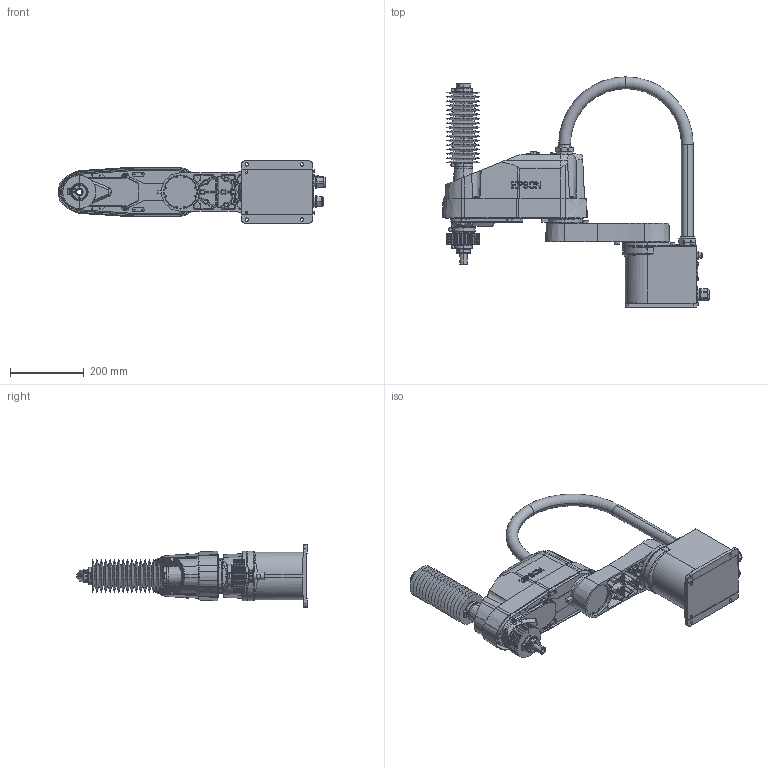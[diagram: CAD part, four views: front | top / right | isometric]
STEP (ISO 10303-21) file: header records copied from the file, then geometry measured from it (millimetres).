
FILE_DESCRIPTION (( 'STEP AP214' ), '1' );
FILE_NAME ('LA6-x502C.STEP', '2026-07-14T21:29:59', ( '' ), ( '' ), 'SwSTEP 2.0', 'SolidWorks 2020', '' );
FILE_SCHEMA (( 'AUTOMOTIVE_DESIGN' ));
Length unit declared in the file: millimetre
Products named in the file (6): LA6-A-C_Z_AXIS; LA6-A-C_BASE; LA6-A502C_J1_ARM; LA6-A_J2_ARM; LA6-A502C_CONDUIT; LA6-x502C
Assembly tree (5 placements, depth 2):
  LA6-x502C
    LA6-A-C_BASE
    LA6-A502C_J1_ARM
    LA6-A_J2_ARM
    LA6-A-C_Z_AXIS
    LA6-A502C_CONDUIT
Bounding box: 727.53 x 626 x 169 mm (x, y, z)
Volume: 12430226.2 mm3; surface area: 1222885.4 mm2
Topology: 4 solids, 5 shells, 2694 faces, 6881 edges, 4399 vertices
Faces by surface type: plane 1368, cone 659, cylinder 549, torus 88, sphere 22, bspline 8
Entity records: 106250 total; most frequent: CARTESIAN_POINT 32445, ORIENTED_EDGE 13670, DIRECTION 12942, EDGE_CURVE 6835, AXIS2_PLACEMENT_3D 4651, VERTEX_POINT 4399, LINE 3640, VECTOR 3640
